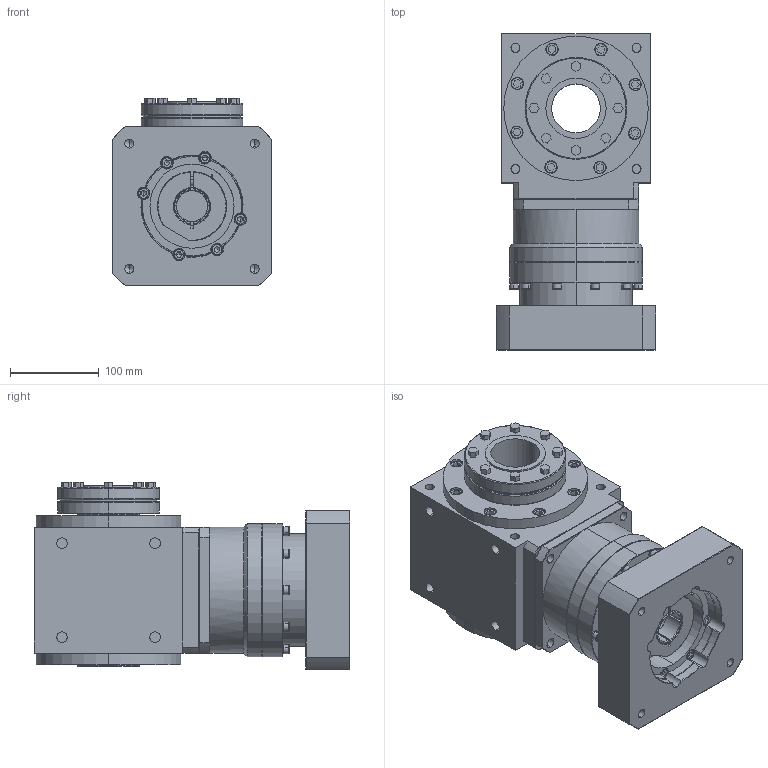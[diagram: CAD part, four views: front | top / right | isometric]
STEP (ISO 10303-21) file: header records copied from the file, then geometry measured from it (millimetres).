
FILE_DESCRIPTION (( 'STEP AP203' ), '1' );
FILE_NAME ('AAW165AS-L1-RFHP 35-114.3-200-M12.STEP', '2024-12-24T08:17:02', ( '' ), ( '' ), 'SwSTEP 2.0', 'SolidWorks 2021', '' );
FILE_SCHEMA (( 'CONFIG_CONTROL_DESIGN' ));
Length unit declared in the file: millimetre
Products named in the file (3): AAW165AS-RFHP; VRB-142-L1-S2-P1 35-114.3-200-M12; AAW165AS-L1-RFHP 35-114.3-200-M12
Assembly tree (2 placements, depth 2):
  AAW165AS-L1-RFHP 35-114.3-200-M12
    AAW165AS-RFHP
    VRB-142-L1-S2-P1 35-114.3-200-M12
Bounding box: 180 x 356.5 x 212 mm (x, y, z)
Volume: 7837278 mm3; surface area: 581858.7 mm2
Topology: 40 solids, 40 shells, 1296 faces, 3071 edges, 1934 vertices
Faces by surface type: plane 665, cylinder 428, cone 157, torus 46
Entity records: 39043 total; most frequent: CARTESIAN_POINT 8370, DIRECTION 6680, ORIENTED_EDGE 6030, EDGE_CURVE 3015, AXIS2_PLACEMENT_3D 2540, VERTEX_POINT 1934, VECTOR 1600, LINE 1600
